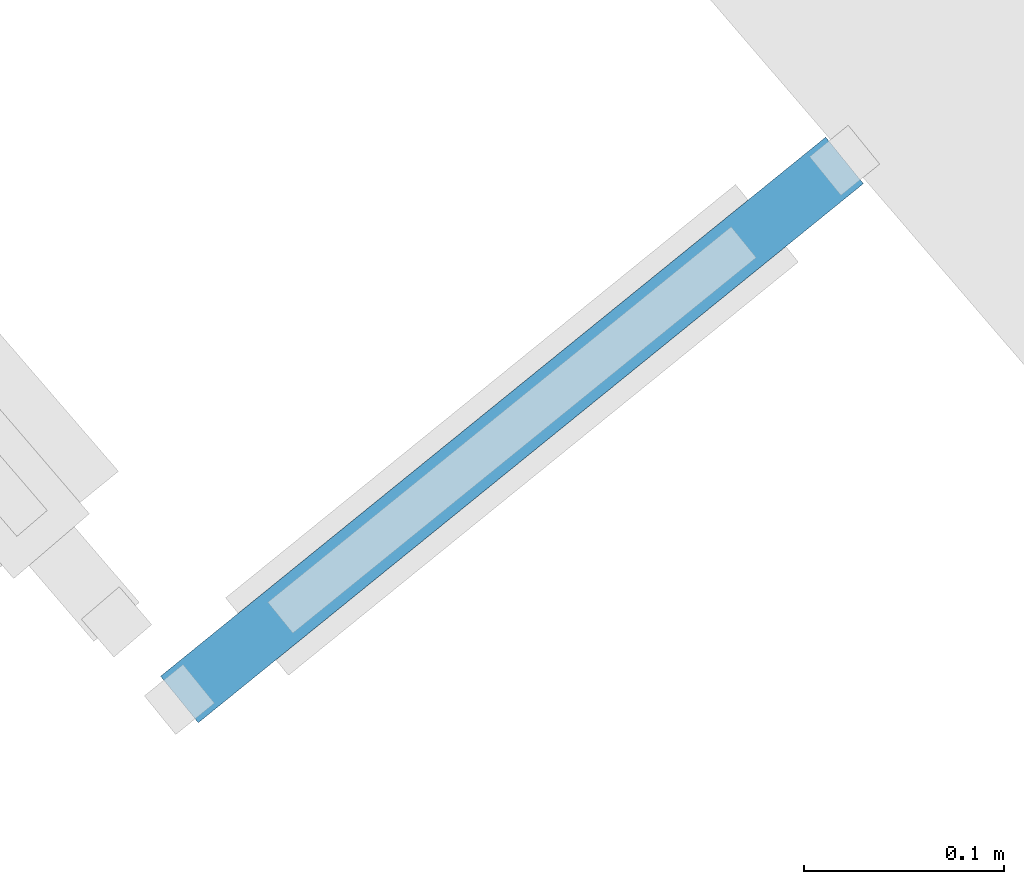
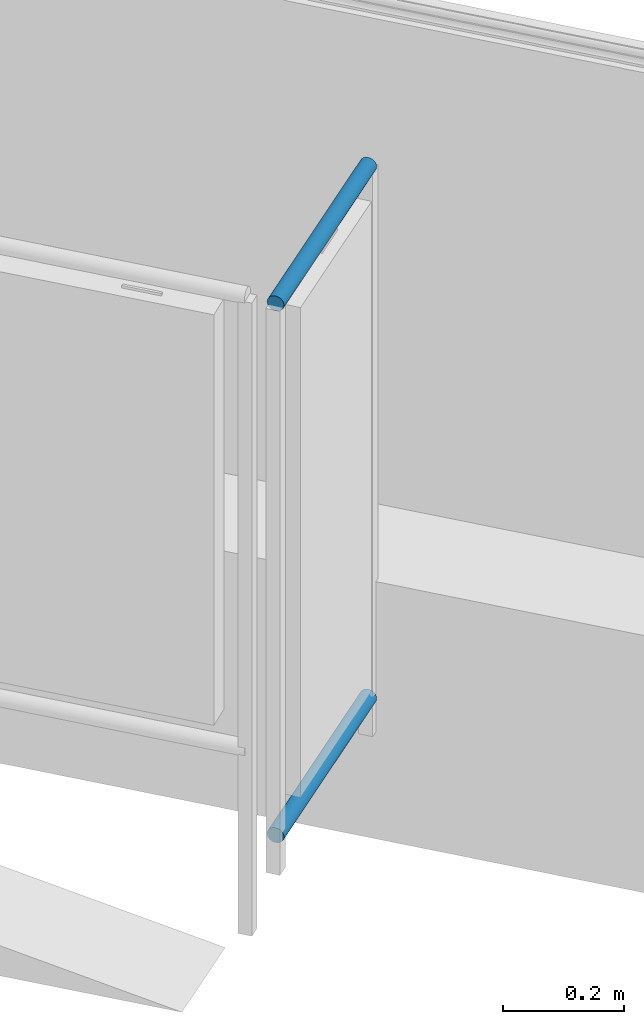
# One storey, part 64 of 75: 2 building element parts, 1 element without a shape of its own.
"""IFC4 building model written with IfcOpenShell, lengths in metres."""

from ifc_helpers import new_model, entity, si_unit, converted_unit, derived_unit, direction, frame, origin_with_axes, place, context, subcontext, project, spatial, polygons, material, type_object, element, aggregate, save


model = new_model("IFC4")

# Units and contexts
model_context = context("Model", 3, precision=1e-05, world=origin_with_axes(), true_north=direction((0.0, 1.0)))
body_context = subcontext(model_context, "Body", "Model", "MODEL_VIEW")
ifc_project = project(units=[si_unit("LENGTHUNIT", "METRE"), si_unit("AREAUNIT", "SQUARE_METRE"), si_unit("VOLUMEUNIT", "CUBIC_METRE"), converted_unit("PLANEANGLEUNIT", "DEGREE", entity("IfcPlaneAngleMeasure", 0.0174532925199), si_unit("PLANEANGLEUNIT", "RADIAN"), dimensions=[0, 0, 0, 0, 0, 0, 0]), converted_unit("TIMEUNIT", "Year", entity("IfcTimeMeasure", 31556926.0), si_unit("TIMEUNIT", "SECOND"), dimensions=[0, 0, 1, 0, 0, 0, 0]), si_unit("MASSUNIT", "GRAM", prefix="KILO"), si_unit("THERMODYNAMICTEMPERATUREUNIT", "DEGREE_CELSIUS"), si_unit("LUMINOUSINTENSITYUNIT", "LUMEN"), si_unit("ENERGYUNIT", "JOULE", prefix="MEGA"), derived_unit("THERMALCONDUCTANCEUNIT", [(si_unit("POWERUNIT", "WATT"), 1), (si_unit("LENGTHUNIT", "METRE"), -1), (si_unit("THERMODYNAMICTEMPERATUREUNIT", "KELVIN"), -1)]), derived_unit("SPECIFICHEATCAPACITYUNIT", [(si_unit("ENERGYUNIT", "JOULE"), 1), (si_unit("MASSUNIT", "GRAM", prefix="KILO"), -1), (si_unit("THERMODYNAMICTEMPERATUREUNIT", "KELVIN"), -1)]), derived_unit("MASSDENSITYUNIT", [(si_unit("MASSUNIT", "GRAM", prefix="KILO"), 1), (si_unit("VOLUMEUNIT", "CUBIC_METRE"), -1)])], contexts=[model_context])

# Site, building, storey
site_placement = place(None, frame((-0.00153261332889, -0.00661245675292, 0.0), z_axis=(0.0, 0.0, 1.0), x_axis=(1.0, 0.0, 0.0)))
site = spatial("IfcSite", under=ifc_project, at=site_placement, Name="Gelände", CompositionType="ELEMENT")
building_placement = place(site_placement, origin_with_axes())
building = spatial("IfcBuilding", under=site, at=building_placement, Name="Gebäude", CompositionType="ELEMENT")
storey_placement = place(building_placement, frame((0.0, 0.0, -0.22), z_axis=(0.0, 0.0, 1.0), x_axis=(1.0, 0.0, 0.0)))
storey = spatial("IfcBuildingStorey", under=building, at=storey_placement, Name="EG", CompositionType="ELEMENT", Elevation=-0.22)

# Railing, building element parts
railing_type = type_object("IfcRailingType", Name="Geländerart", PredefinedType="NOTDEFINED")
railing_placement = place(storey_placement, frame((18.629242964, 20.5689313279, 0.215679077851), z_axis=(0.0, 0.0, 1.0), x_axis=(1.0, 0.0, 0.0)))
railing = element("IfcRailing", 1, at=railing_placement, inside=storey, type_object=railing_type, Name="Geländer - 001", PredefinedType="NOTDEFINED")
ifc_material = material(Name="Aluminium")
building_element_part_1_placement = place(railing_placement, origin_with_axes())
building_element_part_1 = element("IfcBuildingElementPart", 2, at=building_element_part_1_placement, material=ifc_material, Name="Aluminium", PredefinedType="NOTDEFINED", context=body_context, shape_type="Tessellation", body=[
    polygons([(0.0220384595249, -0.0271901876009, 1.145), (0.0221819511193, -0.0273672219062, 1.14760472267), (0.355302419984, 0.242636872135, 1.14760472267), (0.35515892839, 0.24281390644, 1.145), (0.0221819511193, -0.0273672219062, 1.14239527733), (0.0226080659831, -0.0278929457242, 1.13986969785), (0.0233038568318, -0.0287513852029, 1.1375), (0.0242481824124, -0.0299164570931, 1.13535818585), (0.0254123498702, -0.0313527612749, 1.13350933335), (0.0267609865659, -0.0330166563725, 1.13200961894), (0.0282531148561, -0.0348575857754, 1.13090461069), (0.0298433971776, -0.0368196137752, 1.1302278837), (0.031483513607, -0.0388431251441, 1.13), (0.0331236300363, -0.0408666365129, 1.1302278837), (0.0347139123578, -0.0428286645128, 1.13090461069), (0.036206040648, -0.0446695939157, 1.13200961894), (0.0375546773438, -0.0463334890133, 1.13350933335), (0.0387188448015, -0.0477697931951, 1.13535818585), (0.0396631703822, -0.0489348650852, 1.1375), (0.0403589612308, -0.0497933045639, 1.13986969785), (0.0407850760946, -0.050319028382, 1.14239527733), (0.0409285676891, -0.0504960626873, 1.145), (0.0407850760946, -0.050319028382, 1.14760472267), (0.0403589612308, -0.0497933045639, 1.15013030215), (0.0396631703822, -0.0489348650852, 1.1525), (0.0387188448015, -0.0477697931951, 1.15464181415), (0.0375546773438, -0.0463334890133, 1.15649066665), (0.036206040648, -0.0446695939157, 1.15799038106), (0.0347139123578, -0.0428286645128, 1.15909538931), (0.0331236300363, -0.0408666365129, 1.1597721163), (0.031483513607, -0.0388431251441, 1.16), (0.0298433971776, -0.0368196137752, 1.1597721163), (0.0282531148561, -0.0348575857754, 1.15909538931), (0.0267609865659, -0.0330166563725, 1.15799038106), (0.0254123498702, -0.0313527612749, 1.15649066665), (0.0242481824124, -0.0299164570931, 1.15464181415), (0.0233038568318, -0.0287513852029, 1.1525), (0.0226080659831, -0.0278929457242, 1.15013030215), (0.355728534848, 0.242111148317, 1.15013030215), (0.356424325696, 0.241252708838, 1.1525), (0.357368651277, 0.240087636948, 1.15464181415), (0.358532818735, 0.238651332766, 1.15649066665), (0.359881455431, 0.236987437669, 1.15799038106), (0.361373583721, 0.235146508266, 1.15909538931), (0.362963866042, 0.233184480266, 1.1597721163), (0.364603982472, 0.231160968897, 1.16), (0.366244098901, 0.229137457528, 1.1597721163), (0.367834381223, 0.227175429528, 1.15909538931), (0.369326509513, 0.225334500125, 1.15799038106), (0.370675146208, 0.223670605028, 1.15649066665), (0.371839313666, 0.222234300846, 1.15464181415), (0.372783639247, 0.221069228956, 1.1525), (0.373479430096, 0.220210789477, 1.15013030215), (0.373905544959, 0.219685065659, 1.14760472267), (0.374049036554, 0.219508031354, 1.145), (0.373905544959, 0.219685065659, 1.14239527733), (0.373479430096, 0.220210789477, 1.13986969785), (0.372783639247, 0.221069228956, 1.1375), (0.371839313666, 0.222234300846, 1.13535818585), (0.370675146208, 0.223670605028, 1.13350933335), (0.369326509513, 0.225334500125, 1.13200961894), (0.367834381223, 0.227175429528, 1.13090461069), (0.366244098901, 0.229137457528, 1.1302278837), (0.364603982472, 0.231160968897, 1.13), (0.362963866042, 0.233184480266, 1.1302278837), (0.361373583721, 0.235146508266, 1.13090461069), (0.359881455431, 0.236987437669, 1.13200961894), (0.358532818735, 0.238651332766, 1.13350933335), (0.357368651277, 0.240087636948, 1.13535818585), (0.356424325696, 0.241252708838, 1.1375), (0.355728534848, 0.242111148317, 1.13986969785), (0.355302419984, 0.242636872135, 1.14239527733)], [[[1, 2, 3, 4]], [[1, 5, 6, 7, 8, 9, 10, 11, 12, 13, 14, 15, 16, 17, 18, 19, 20, 21, 22, 23, 24, 25, 26, 27, 28, 29, 30, 31, 32, 33, 34, 35, 36, 37, 38, 2]], [[2, 38, 39, 3]], [[4, 3, 39, 40, 41, 42, 43, 44, 45, 46, 47, 48, 49, 50, 51, 52, 53, 54, 55, 56, 57, 58, 59, 60, 61, 62, 63, 64, 65, 66, 67, 68, 69, 70, 71, 72]], [[5, 1, 4, 72]], [[6, 5, 72, 71]], [[7, 6, 71, 70]], [[8, 7, 70, 69]], [[9, 8, 69, 68]], [[10, 9, 68, 67]], [[11, 10, 67, 66]], [[12, 11, 66, 65]], [[13, 12, 65, 64]], [[14, 13, 64, 63]], [[15, 14, 63, 62]], [[16, 15, 62, 61]], [[17, 16, 61, 60]], [[18, 17, 60, 59]], [[19, 18, 59, 58]], [[20, 19, 58, 57]], [[21, 20, 57, 56]], [[22, 21, 56, 55]], [[23, 22, 55, 54]], [[24, 23, 54, 53]], [[25, 24, 53, 52]], [[26, 25, 52, 51]], [[27, 26, 51, 50]], [[28, 27, 50, 49]], [[29, 28, 49, 48]], [[30, 29, 48, 47]], [[31, 30, 47, 46]], [[32, 31, 46, 45]], [[33, 32, 45, 44]], [[34, 33, 44, 43]], [[35, 34, 43, 42]], [[36, 35, 42, 41]], [[37, 36, 41, 40]], [[38, 37, 40, 39]]], closed=True),
])
building_element_part_2_placement = place(railing_placement, origin_with_axes())
building_element_part_2 = element("IfcBuildingElementPart", 3, at=building_element_part_2_placement, material=ifc_material, Name="Aluminium", PredefinedType="NOTDEFINED", context=body_context, shape_type="Tessellation", body=[
    polygons([(0.0220384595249, -0.0271901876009, 0.07), (0.0221819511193, -0.0273672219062, 0.072604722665), (0.355302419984, 0.242636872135, 0.072604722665), (0.35515892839, 0.24281390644, 0.07), (0.0221819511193, -0.0273672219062, 0.067395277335), (0.0226080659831, -0.0278929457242, 0.0648696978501), (0.0233038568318, -0.0287513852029, 0.0625), (0.0242481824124, -0.0299164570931, 0.0603581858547), (0.0254123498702, -0.0313527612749, 0.0585093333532), (0.0267609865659, -0.0330166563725, 0.0570096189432), (0.0282531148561, -0.0348575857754, 0.0559046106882), (0.0298433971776, -0.0368196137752, 0.0552278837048), (0.031483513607, -0.0388431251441, 0.055), (0.0331236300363, -0.0408666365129, 0.0552278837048), (0.0347139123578, -0.0428286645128, 0.0559046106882), (0.036206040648, -0.0446695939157, 0.0570096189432), (0.0375546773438, -0.0463334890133, 0.0585093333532), (0.0387188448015, -0.0477697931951, 0.0603581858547), (0.0396631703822, -0.0489348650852, 0.0625), (0.0403589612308, -0.0497933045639, 0.0648696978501), (0.0407850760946, -0.050319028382, 0.067395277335), (0.0409285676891, -0.0504960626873, 0.07), (0.0407850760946, -0.050319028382, 0.072604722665), (0.0403589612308, -0.0497933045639, 0.0751303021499), (0.0396631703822, -0.0489348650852, 0.0775), (0.0387188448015, -0.0477697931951, 0.0796418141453), (0.0375546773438, -0.0463334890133, 0.0814906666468), (0.036206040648, -0.0446695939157, 0.0829903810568), (0.0347139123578, -0.0428286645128, 0.0840953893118), (0.0331236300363, -0.0408666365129, 0.0847721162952), (0.031483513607, -0.0388431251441, 0.085), (0.0298433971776, -0.0368196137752, 0.0847721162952), (0.0282531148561, -0.0348575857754, 0.0840953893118), (0.0267609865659, -0.0330166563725, 0.0829903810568), (0.0254123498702, -0.0313527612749, 0.0814906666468), (0.0242481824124, -0.0299164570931, 0.0796418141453), (0.0233038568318, -0.0287513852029, 0.0775), (0.0226080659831, -0.0278929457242, 0.0751303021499), (0.355728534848, 0.242111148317, 0.0751303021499), (0.356424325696, 0.241252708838, 0.0775), (0.357368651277, 0.240087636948, 0.0796418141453), (0.358532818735, 0.238651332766, 0.0814906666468), (0.359881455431, 0.236987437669, 0.0829903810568), (0.361373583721, 0.235146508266, 0.0840953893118), (0.362963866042, 0.233184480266, 0.0847721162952), (0.364603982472, 0.231160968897, 0.085), (0.366244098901, 0.229137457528, 0.0847721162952), (0.367834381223, 0.227175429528, 0.0840953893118), (0.369326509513, 0.225334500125, 0.0829903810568), (0.370675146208, 0.223670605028, 0.0814906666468), (0.371839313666, 0.222234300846, 0.0796418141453), (0.372783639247, 0.221069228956, 0.0775), (0.373479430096, 0.220210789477, 0.0751303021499), (0.373905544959, 0.219685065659, 0.072604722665), (0.374049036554, 0.219508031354, 0.07), (0.373905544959, 0.219685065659, 0.067395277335), (0.373479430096, 0.220210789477, 0.0648696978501), (0.372783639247, 0.221069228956, 0.0625), (0.371839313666, 0.222234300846, 0.0603581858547), (0.370675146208, 0.223670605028, 0.0585093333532), (0.369326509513, 0.225334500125, 0.0570096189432), (0.367834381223, 0.227175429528, 0.0559046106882), (0.366244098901, 0.229137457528, 0.0552278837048), (0.364603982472, 0.231160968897, 0.055), (0.362963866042, 0.233184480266, 0.0552278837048), (0.361373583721, 0.235146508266, 0.0559046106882), (0.359881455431, 0.236987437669, 0.0570096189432), (0.358532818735, 0.238651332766, 0.0585093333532), (0.357368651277, 0.240087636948, 0.0603581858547), (0.356424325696, 0.241252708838, 0.0625), (0.355728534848, 0.242111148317, 0.0648696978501), (0.355302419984, 0.242636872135, 0.067395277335)], [[[1, 2, 3, 4]], [[1, 5, 6, 7, 8, 9, 10, 11, 12, 13, 14, 15, 16, 17, 18, 19, 20, 21, 22, 23, 24, 25, 26, 27, 28, 29, 30, 31, 32, 33, 34, 35, 36, 37, 38, 2]], [[2, 38, 39, 3]], [[4, 3, 39, 40, 41, 42, 43, 44, 45, 46, 47, 48, 49, 50, 51, 52, 53, 54, 55, 56, 57, 58, 59, 60, 61, 62, 63, 64, 65, 66, 67, 68, 69, 70, 71, 72]], [[5, 1, 4, 72]], [[6, 5, 72, 71]], [[7, 6, 71, 70]], [[8, 7, 70, 69]], [[9, 8, 69, 68]], [[10, 9, 68, 67]], [[11, 10, 67, 66]], [[12, 11, 66, 65]], [[13, 12, 65, 64]], [[14, 13, 64, 63]], [[15, 14, 63, 62]], [[16, 15, 62, 61]], [[17, 16, 61, 60]], [[18, 17, 60, 59]], [[19, 18, 59, 58]], [[20, 19, 58, 57]], [[21, 20, 57, 56]], [[22, 21, 56, 55]], [[23, 22, 55, 54]], [[24, 23, 54, 53]], [[25, 24, 53, 52]], [[26, 25, 52, 51]], [[27, 26, 51, 50]], [[28, 27, 50, 49]], [[29, 28, 49, 48]], [[30, 29, 48, 47]], [[31, 30, 47, 46]], [[32, 31, 46, 45]], [[33, 32, 45, 44]], [[34, 33, 44, 43]], [[35, 34, 43, 42]], [[36, 35, 42, 41]], [[37, 36, 41, 40]], [[38, 37, 40, 39]]], closed=True),
])
aggregate(railing, [building_element_part_1, building_element_part_2])

save(model, "model.ifc")
